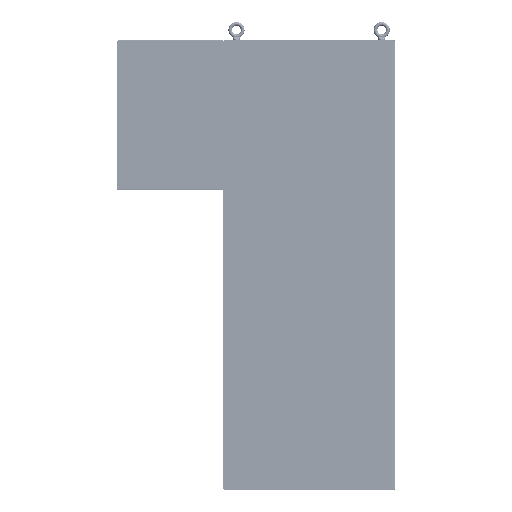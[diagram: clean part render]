
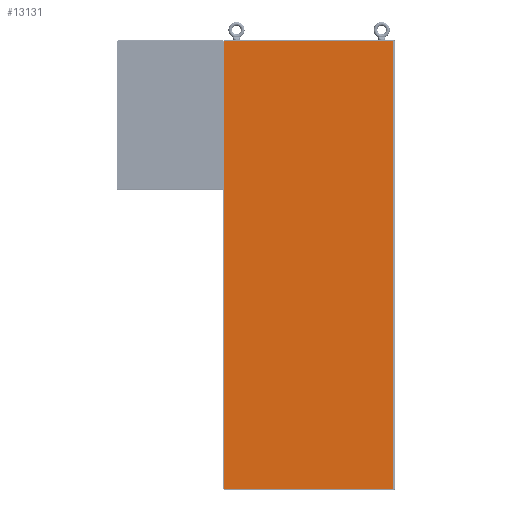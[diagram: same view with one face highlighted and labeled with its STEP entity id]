
A CAD part, front view. The second image highlights one B-rep face of the part: STEP entity #13131.
In plain terms, the highlighted planar face has unit normal (0, -1, 0).
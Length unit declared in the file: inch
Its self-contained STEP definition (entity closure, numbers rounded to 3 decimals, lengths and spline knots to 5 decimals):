
#10712=DIRECTION('',(0.,0.,-1.));
#10713=VECTOR('',#10712,71.75);
#10714=CARTESIAN_POINT('',(-2.2405,-17.1875,0.));
#10715=LINE('',#10714,#10713);
#10742=CARTESIAN_POINT('',(24.822,-17.1875,-71.6875));
#10743=DIRECTION('',(0.,-1.,0.));
#10744=DIRECTION('',(0.,0.,-1.));
#10745=AXIS2_PLACEMENT_3D('',#10742,#10743,#10744);
#10750=DIRECTION('',(1.,0.,0.));
#10751=VECTOR('',#10750,27.0625);
#10752=CARTESIAN_POINT('',(-2.2405,-17.1875,-71.75));
#10753=LINE('',#10752,#10751);
#10757=DIRECTION('',(-1.,0.,0.));
#10758=VECTOR('',#10757,27.0625);
#10759=CARTESIAN_POINT('',(24.822,-17.1875,0.));
#10760=LINE('',#10759,#10758);
#10764=CARTESIAN_POINT('',(24.822,-17.1875,-0.0625));
#10765=DIRECTION('',(0.,-1.,0.));
#10766=DIRECTION('',(1.,0.,0.));
#10767=AXIS2_PLACEMENT_3D('',#10764,#10765,#10766);
#10772=DIRECTION('',(0.,0.,1.));
#10773=VECTOR('',#10772,71.625);
#10774=CARTESIAN_POINT('',(24.8845,-17.1875,-71.6875));
#10775=LINE('',#10774,#10773);
#12763=CARTESIAN_POINT('',(-2.2405,-17.1875,0.));
#12764=CARTESIAN_POINT('',(-2.2405,-17.1875,-71.75));
#12765=VERTEX_POINT('',#12763);
#12766=VERTEX_POINT('',#12764);
#12843=CARTESIAN_POINT('',(24.822,-17.1875,-71.75));
#12844=CARTESIAN_POINT('',(24.8845,-17.1875,-71.6875));
#12845=VERTEX_POINT('',#12843);
#12846=VERTEX_POINT('',#12844);
#12851=CARTESIAN_POINT('',(24.8845,-17.1875,-0.0625));
#12852=CARTESIAN_POINT('',(24.822,-17.1875,0.));
#12853=VERTEX_POINT('',#12851);
#12854=VERTEX_POINT('',#12852);
#13113=CARTESIAN_POINT('',(-2.4905,-17.1875,-17.0478));
#13114=DIRECTION('',(0.,-1.,0.));
#13115=DIRECTION('',(0.,0.,1.));
#13116=AXIS2_PLACEMENT_3D('',#13113,#13114,#13115);
#13117=PLANE('',#13116);
#13119=ORIENTED_EDGE('',*,*,#13118,.F.);
#13121=ORIENTED_EDGE('',*,*,#13120,.F.);
#13122=ORIENTED_EDGE('',*,*,#13096,.F.);
#13124=ORIENTED_EDGE('',*,*,#13123,.F.);
#13126=ORIENTED_EDGE('',*,*,#13125,.F.);
#13128=ORIENTED_EDGE('',*,*,#13127,.F.);
#13129=EDGE_LOOP('',(#13119,#13121,#13122,#13124,#13126,#13128));
#13130=FACE_OUTER_BOUND('',#13129,.F.);
#10746=CIRCLE('',#10745,0.0625);
#10768=CIRCLE('',#10767,0.0625);
#13096=EDGE_CURVE('',#12765,#12766,#10715,.T.);
#13118=EDGE_CURVE('',#12845,#12846,#10746,.T.);
#13120=EDGE_CURVE('',#12766,#12845,#10753,.T.);
#13123=EDGE_CURVE('',#12854,#12765,#10760,.T.);
#13125=EDGE_CURVE('',#12853,#12854,#10768,.T.);
#13127=EDGE_CURVE('',#12846,#12853,#10775,.T.);
#13131=ADVANCED_FACE('',(#13130),#13117,.T.);
